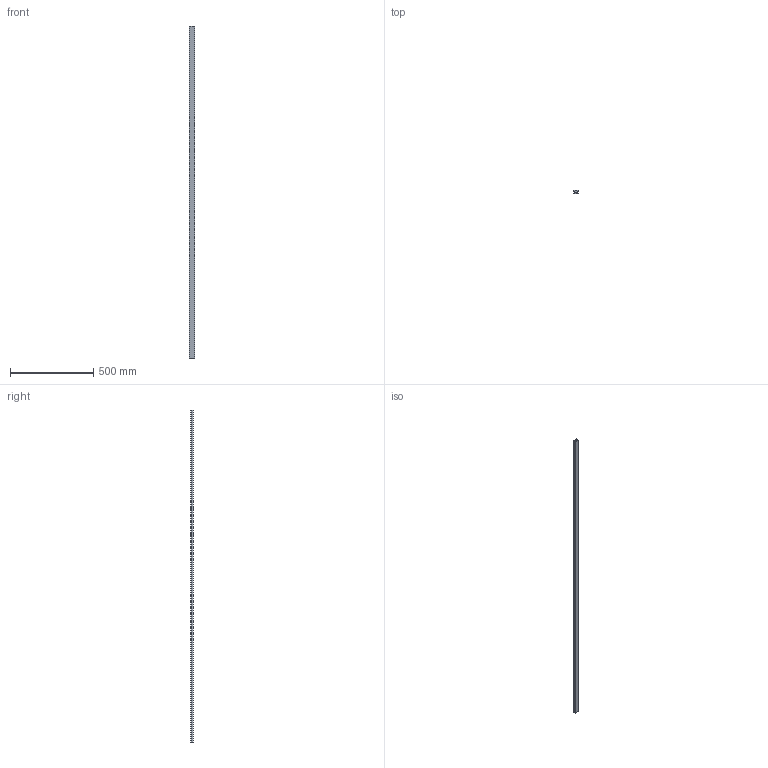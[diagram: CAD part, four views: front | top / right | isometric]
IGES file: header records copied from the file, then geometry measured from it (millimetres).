
Start section: SolidWorks IGES file using analytic representation for surfaces
Global section: file name: C:\Documents and Settings\ARGE\Desktop\yeni katalog tolgay düzenli\E kataloðu\ALPOLEN 1000 TCG ZÝNCÝR KIZAKLARI\207 TCG P34.IGS; native system: SolidWorks 2006 by SolidWorks Corporation; preprocessor: SolidWorks 2006 by SolidWorks Corporation; author: ARGE2; date: 060913.091052; units: millimetre
Bounding box: 31 x 18 x 2000 mm (x, y, z)
Surface area: 471120.3 mm2 (no closed solid volume)
Topology: 0 solids, 0 shells, 36 faces, 248 edges, 248 vertices
Faces by surface type: bspline 32, revolution 4
